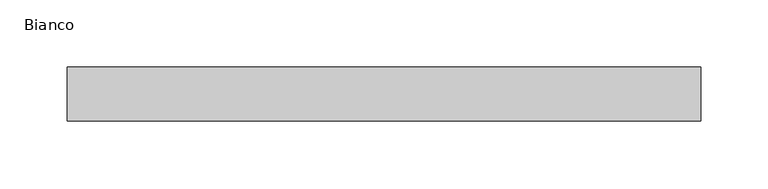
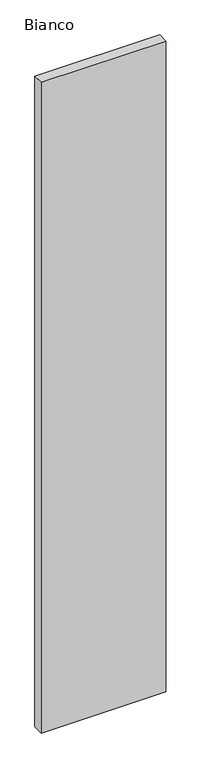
"""IFC4 building model written with IfcOpenShell, lengths in millimetres: plate geometry, Lod 200 Regolare 800 Vertical : Bianco."""

import ifcopenshell
import ifcopenshell.guid

model = None  # the IFC model being written
_history = None  # IfcOwnerHistory: only IFC2X3 demands one
_inside = {}  # id of a spatial element -> (the spatial element, [elements in it])
_under = {}  # id of a project, library or spatial element -> (it, [spatial elements below it])
_declared = {}  # id of a project -> (the project, [libraries it declares])
_typed = {}  # id of a type object -> (the type object, [elements of that type])
_made_of = {}  # id of a material, layer set ... -> (it, [elements and type objects made of it])


def new_model(schema):
    """Start an empty IFC model of exactly this schema.

    Asked for "IFC4X3", IfcOpenShell would pick the latest addendum, in which some entities
    have other attributes; the version numbers below select the first issue.
    IFC2X3 requires an IfcOwnerHistory on every rooted entity: one is made here for all.
    """
    global model, _history
    if schema == "IFC4X3":
        model = ifcopenshell.file(schema_version=(4, 3, 0, 0))
    else:
        model = ifcopenshell.file(schema=schema)
    _inside.clear()
    _under.clear()
    _declared.clear()
    _typed.clear()
    _made_of.clear()
    _history = None
    if model.schema == "IFC2X3":
        org = make("IfcOrganization", Name="unknown")
        user = make(
            "IfcPersonAndOrganization",
            ThePerson=make("IfcPerson", FamilyName="unknown"),
            TheOrganization=org,
        )
        app = make(
            "IfcApplication",
            ApplicationDeveloper=org,
            Version="unknown",
            ApplicationFullName="unknown",
            ApplicationIdentifier="unknown",
        )
        _history = make(
            "IfcOwnerHistory",
            OwningUser=user,
            OwningApplication=app,
            ChangeAction="ADDED",
            CreationDate=0,
        )
    return model


def make(cls, **values):
    """One entity of the class cls with the attributes given. An attribute that is None is left unset."""
    return model.create_entity(
        cls, **{name: value for name, value in values.items() if value is not None}
    )


def rooted(cls, **values):
    """An entity with a GlobalId (a new one), such as an element, a storey or a relation."""
    return make(cls, GlobalId=ifcopenshell.guid.new(), OwnerHistory=_history, **values)


def si_unit(unit_type, name, prefix=None):
    """IfcSIUnit, for example si_unit("LENGTHUNIT", "METRE", prefix="MILLI")."""
    return make("IfcSIUnit", UnitType=unit_type, Prefix=prefix, Name=name)


def assignment(units):
    """IfcUnitAssignment: the units of a project."""
    return None if units is None else make("IfcUnitAssignment", Units=units)


def point(xyz):
    """IfcCartesianPoint."""
    return None if xyz is None else make("IfcCartesianPoint", Coordinates=xyz)


def direction(xyz):
    """IfcDirection."""
    return None if xyz is None else make("IfcDirection", DirectionRatios=xyz)


def frame(location, z_axis=None, x_axis=None):
    """IfcAxis2Placement3D, a coordinate frame: its origin and axes. An axis left out is left unset."""
    return make(
        "IfcAxis2Placement3D",
        Location=point(location),
        Axis=direction(z_axis),
        RefDirection=direction(x_axis),
    )


def origin():
    """The frame at (0, 0, 0) with its axes left unset."""
    return frame((0.0, 0.0, 0.0))


def origin_with_axes():
    """The frame at (0, 0, 0) with the z axis (0, 0, 1) and the x axis (1, 0, 0) written out."""
    return frame((0.0, 0.0, 0.0), z_axis=(0.0, 0.0, 1.0), x_axis=(1.0, 0.0, 0.0))


def place(relative_to, where):
    """IfcLocalPlacement: puts the frame where relative to a parent placement (None: the world)."""
    return make(
        "IfcLocalPlacement", PlacementRelTo=relative_to, RelativePlacement=where
    )


def context(
    kind, dimensions, precision=None, world=None, true_north=None, identifier=None
):
    """IfcGeometricRepresentationContext, for example the 3D "Model" context."""
    return make(
        "IfcGeometricRepresentationContext",
        ContextIdentifier=identifier,
        ContextType=kind,
        CoordinateSpaceDimension=dimensions,
        Precision=precision,
        WorldCoordinateSystem=world,
        TrueNorth=true_north,
    )


def project(units=None, contexts=None):
    """IfcProject with its units and contexts."""
    return rooted(
        "IfcProject",
        Name="project",
        RepresentationContexts=contexts,
        UnitsInContext=assignment(units),
    )


def spatial(cls, under=None, at=None, **own):
    """A site, building, storey or space (cls), placed at a placement, below another one or the project."""
    s = rooted(cls, ObjectPlacement=at, **own)
    if under is not None:
        _under.setdefault(under.id(), (under, []))[1].append(s)
    return s


def polyline(points):
    """IfcPolyline through the points."""
    return make("IfcPolyline", Points=[point(p) for p in points])


def outline(outer, holes=None, kind="AREA"):
    """IfcArbitraryClosedProfileDef: a profile drawn as a closed curve; with holes, ...WithVoids."""
    if holes is None:
        return make("IfcArbitraryClosedProfileDef", ProfileType=kind, OuterCurve=outer)
    return make(
        "IfcArbitraryProfileDefWithVoids",
        ProfileType=kind,
        OuterCurve=outer,
        InnerCurves=holes,
    )


def extrude(swept, where, along, depth):
    """IfcExtrudedAreaSolid: the profile swept, set in the frame where, extruded along a direction by depth."""
    return make(
        "IfcExtrudedAreaSolid",
        SweptArea=swept,
        Position=where,
        ExtrudedDirection=direction(along),
        Depth=depth,
    )


def shape(context_of_items, identifier, shape_type, items):
    """IfcShapeRepresentation: the items that make up one representation, for example the "Body"."""
    return make(
        "IfcShapeRepresentation",
        ContextOfItems=context_of_items,
        RepresentationIdentifier=identifier,
        RepresentationType=shape_type,
        Items=items,
    )


def source(mapping_origin, context_of_items, identifier, shape_type, items):
    """IfcRepresentationMap: a shape defined once, which mapped items show again and again."""
    return make(
        "IfcRepresentationMap",
        MappingOrigin=mapping_origin,
        MappedRepresentation=shape(context_of_items, identifier, shape_type, items),
    )


def transform(
    local_origin,
    x_axis=None,
    y_axis=None,
    z_axis=None,
    scale=None,
    scale2=None,
    scale3=None,
    uniform=True,
):
    """IfcCartesianTransformationOperator3D, or its non-uniform kind. x_axis, y_axis, z_axis: its Axis1, 2, 3."""
    if uniform:
        return make(
            "IfcCartesianTransformationOperator3D",
            Axis1=direction(x_axis),
            Axis2=direction(y_axis),
            LocalOrigin=point(local_origin),
            Scale=scale,
            Axis3=direction(z_axis),
        )
    return make(
        "IfcCartesianTransformationOperator3DnonUniform",
        Axis1=direction(x_axis),
        Axis2=direction(y_axis),
        LocalOrigin=point(local_origin),
        Scale=scale,
        Axis3=direction(z_axis),
        Scale2=scale2,
        Scale3=scale3,
    )


def mapped(mapping_source, mapping_target):
    """IfcMappedItem: shows the shape of a source again, moved by a transform."""
    return make(
        "IfcMappedItem", MappingSource=mapping_source, MappingTarget=mapping_target
    )


def made_of(thing, what):
    """Note that an element or type object is made of a material, layer set ...; save() writes the relation."""
    if what is not None:
        _made_of.setdefault(what.id(), (what, []))[1].append(thing)
    return thing


def element(
    cls,
    number,
    at=None,
    inside=None,
    cuts=None,
    type_object=None,
    material=None,
    context=None,
    identifier="Body",
    shape_type=None,
    held_by="IfcProductDefinitionShape",
    body=None,
    shapes=None,
    **own,
):
    """One element of the class cls, such as IfcWall. Its Tag is "e" and its number.

    at: its placement. inside: the storey or other place that contains it. cuts: it is an
    opening in that element (IfcRelVoidsElement). A single representation is given by context,
    identifier, shape_type and body (its items); several are given by shapes. held_by: the class
    of the entity that holds the representations. save() writes the other relations.
    """
    e = rooted(cls, Tag="e%d" % number, ObjectPlacement=at, **own)
    if body is not None:
        shapes = [shape(context, identifier, shape_type, body)]
    if shapes is not None:
        e.Representation = make(held_by, Representations=shapes)
    if inside is not None:
        _inside.setdefault(inside.id(), (inside, []))[1].append(e)
    if cuts is not None:
        rooted(
            "IfcRelVoidsElement", RelatingBuildingElement=cuts, RelatedOpeningElement=e
        )
    if type_object is not None:
        _typed.setdefault(type_object.id(), (type_object, []))[1].append(e)
    return made_of(e, material)


def aggregate(whole, parts):
    """IfcRelAggregates: a whole, such as a stair, and the parts it consists of."""
    return rooted("IfcRelAggregates", RelatingObject=whole, RelatedObjects=parts)


def save(model, path):
    """Write the relations noted so far, then the file.

    IfcRelAggregates (storeys below a building ...), IfcRelContainedInSpatialStructure (elements
    in a storey), IfcRelDefinesByType, IfcRelAssociatesMaterial and IfcRelDeclares: one each for
    every whole, place, type object, material and project.
    """
    for whole, parts in _under.values():
        aggregate(whole, parts)
    for where, things in _inside.values():
        rooted(
            "IfcRelContainedInSpatialStructure",
            RelatedElements=things,
            RelatingStructure=where,
        )
    for kind, things in _typed.values():
        rooted("IfcRelDefinesByType", RelatedObjects=things, RelatingType=kind)
    for what, things in _made_of.values():
        rooted("IfcRelAssociatesMaterial", RelatedObjects=things, RelatingMaterial=what)
    for by, libraries in _declared.values():
        rooted("IfcRelDeclares", RelatingContext=by, RelatedDefinitions=libraries)
    model.write(path)


def bianco_9179c8e1(model_context):
    return source(origin(), model_context, "Body", "SweptSolid", [
        extrude(outline(polyline([(235.0, 40.0), (235.0, 0.0), (-235.0, 0.0), (-235.0, 40.0), (235.0, 40.0)])), origin_with_axes(), (0.0, 0.0, 1.0), 2588.190451),
    ])


if __name__ == "__main__":
    model = new_model("IFC4")
    model_context = context("Model", 3, world=origin())
    ifc_project = project(units=[si_unit("LENGTHUNIT", "METRE", prefix="MILLI")], contexts=[model_context])
    site = spatial("IfcSite", under=ifc_project)
    building = spatial("IfcBuilding", under=site)
    placement = place(None, origin())
    bianco_shape = bianco_9179c8e1(model_context)
    element("IfcPlate", 1, ObjectType="Lod 200 Regolare 800 Vertical : Bianco", at=placement, inside=building, context=model_context, shape_type="MappedRepresentation", body=[
        mapped(bianco_shape, transform((0.0, 0.0, 0.0), x_axis=(1.0, 0.0, 0.0), y_axis=(0.0, 1.0, 0.0), z_axis=(0.0, 0.0, 1.0))),
    ])
    save(model, "model.ifc")
